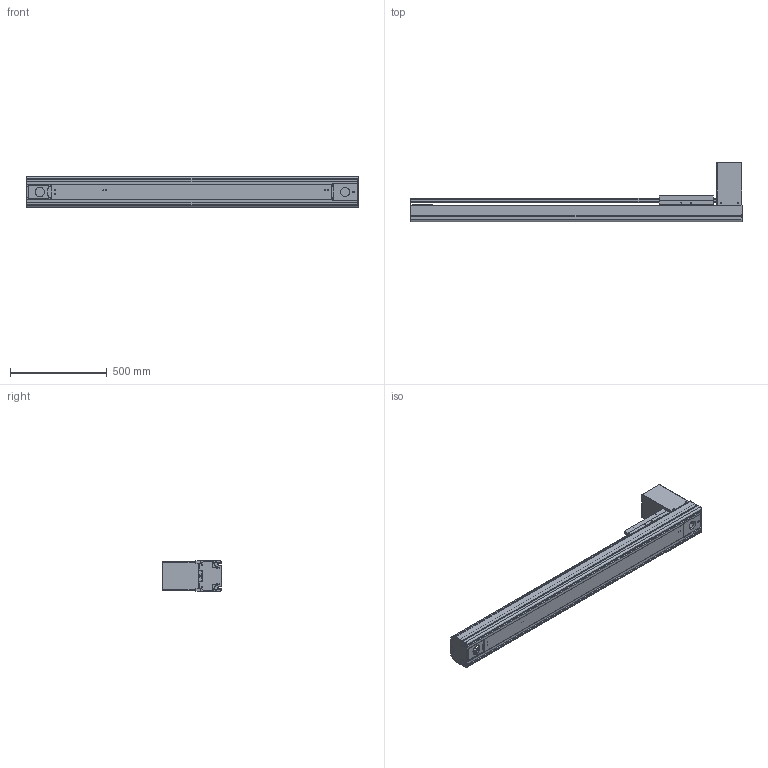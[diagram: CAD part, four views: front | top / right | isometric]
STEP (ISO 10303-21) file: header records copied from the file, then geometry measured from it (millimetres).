
FILE_DESCRIPTION((''),'2;1');
FILE_NAME('BE50G-BT-L19N-B5_IGS_PRT','2017-06-18T',(' '),(''),'PRO/ENGINEER BY PARAMETRIC TECHNOLOGY CORPORATION, 2015030','PRO/ENGINEER BY PARAMETRIC TECHNOLOGY CORPORATION, 2015030','');
FILE_SCHEMA(('CONFIG_CONTROL_DESIGN'));
Products named in the file (1): BE50G-BT-L19N-B5_IGS_PRT
Bounding box: 1720 x 309 x 160 mm (x, y, z)
Volume: 7927462.1 mm3; surface area: 3224216.9 mm2
Topology: 3 solids, 151 shells, 1934 faces, 5457 edges, 3623 vertices
Faces by surface type: cylinder 969, plane 782, cone 140, sphere 23, torus 20
Entity records: 65304 total; most frequent: CARTESIAN_POINT 14547, DIRECTION 10645, ORIENTED_EDGE 10202, EDGE_CURVE 5383, AXIS2_PLACEMENT_3D 3973, VERTEX_POINT 3623, VECTOR 2699, LINE 2699
